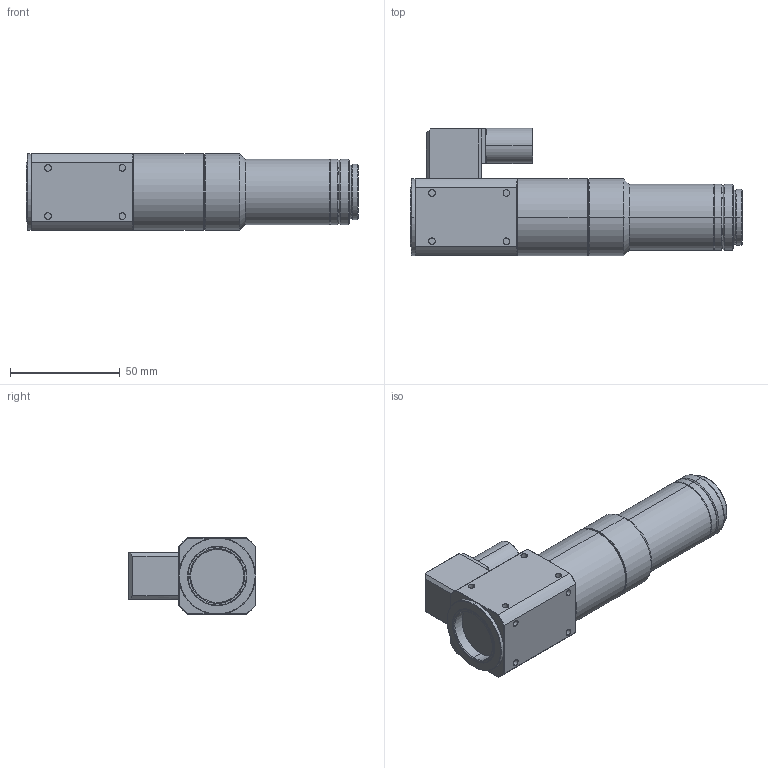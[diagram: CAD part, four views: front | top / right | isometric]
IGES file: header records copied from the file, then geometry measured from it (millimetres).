
Start section: SolidWorks IGES file using analytic representation for surfaces
Global section: file name: \\192.168.200.11\Development\3 製品\1 標準品\05 顕微鏡ユニット\01 VS-MS Series\005 VS-MS05N\10.3D外観モデル\VS-MS05N.IGS; native system: SolidWorks 2018; preprocessor: SolidWorks 2018; author: tsuzuki_vst; date: 190730.095531; units: millimetre
Bounding box: 151.5 x 58 x 35 mm (x, y, z)
Surface area: 23654.8 mm2 (no closed solid volume)
Topology: 0 solids, 0 shells, 242 faces, 2902 edges, 2902 vertices
Faces by surface type: bspline 124, revolution 118
